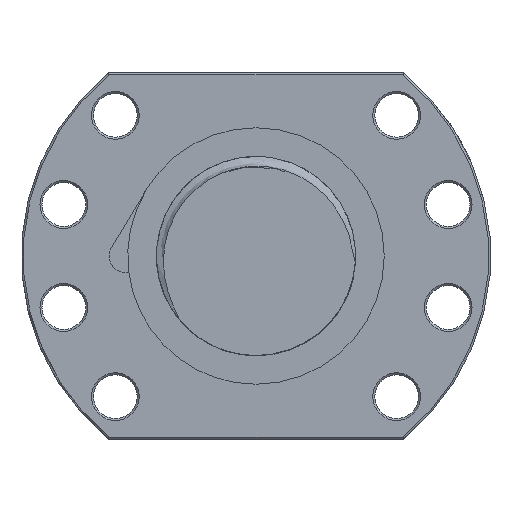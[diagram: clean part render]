
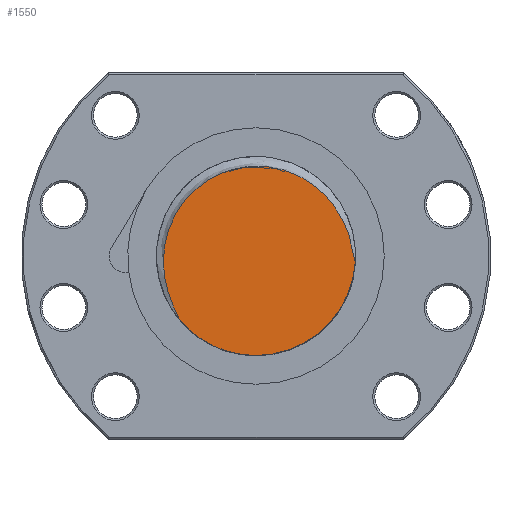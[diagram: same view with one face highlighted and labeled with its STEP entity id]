
A CAD part, left-side view. The second image highlights one B-rep face of the part: STEP entity #1550.
In plain terms, the highlighted planar face has unit normal (-1, 0, 0).
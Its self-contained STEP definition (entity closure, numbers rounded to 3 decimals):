
#773 = VERTEX_POINT ( 'NONE', #19166 ) ;
#844 = VERTEX_POINT ( 'NONE', #19577 ) ;
#1033 = EDGE_CURVE ( 'NONE', #844, #773, #22004, .T. ) ;
#1121 = EDGE_CURVE ( 'NONE', #1122, #844, #22357, .T. ) ;
#1122 = VERTEX_POINT ( 'NONE', #22349 ) ;
#1535 = ORIENTED_EDGE ( 'NONE', *, *, #1033, .F. ) ;
#1539 = EDGE_CURVE ( 'NONE', #1122, #773, #29236, .T. ) ;
#1540 = ORIENTED_EDGE ( 'NONE', *, *, #1121, .F. ) ;
#1543 = EDGE_LOOP ( 'NONE', ( #1540, #1545, #1535 ) ) ;
#1545 = ORIENTED_EDGE ( 'NONE', *, *, #1539, .T. ) ;
#1550 = ADVANCED_FACE ( 'NONE', ( #9519 ), #9518, .F. ) ;
#9513 = DIRECTION ( 'NONE',  ( 0., 0., -1. ) ) ;
#9514 = DIRECTION ( 'NONE',  ( 1., 0., 0. ) ) ;
#9515 = CARTESIAN_POINT ( 'NONE',  ( -208., 0., 0. ) ) ;
#9516 = AXIS2_PLACEMENT_3D ( 'NONE', #9515, #9514, #9513 ) ;
#9518 = PLANE ( 'NONE',  #9516 ) ;
#9519 = FACE_OUTER_BOUND ( 'NONE', #1543, .T. ) ;
#19166 = CARTESIAN_POINT ( 'NONE',  ( -208., 19.232, -15.973 ) ) ;
#19577 = CARTESIAN_POINT ( 'NONE',  ( -208., 0., -25. ) ) ;
#22000 = DIRECTION ( 'NONE',  ( 0., 1., 0. ) ) ;
#22001 = DIRECTION ( 'NONE',  ( 1., 0., 0. ) ) ;
#22002 = CARTESIAN_POINT ( 'NONE',  ( -208., 0., 0. ) ) ;
#22003 = AXIS2_PLACEMENT_3D ( 'NONE', #22002, #22001, #22000 ) ;
#22004 = CIRCLE ( 'NONE', #22003, 25. ) ;
#22349 = CARTESIAN_POINT ( 'NONE',  ( -208., -24.948, -1.617 ) ) ;
#22350 = DIRECTION ( 'NONE',  ( 0., 1., 0. ) ) ;
#22351 = DIRECTION ( 'NONE',  ( 1., 0., 0. ) ) ;
#22352 = CARTESIAN_POINT ( 'NONE',  ( -208., 0., 0. ) ) ;
#22353 = AXIS2_PLACEMENT_3D ( 'NONE', #22352, #22351, #22350 ) ;
#22357 = CIRCLE ( 'NONE', #22353, 25. ) ;
#28629 = CARTESIAN_POINT ( 'NONE',  ( -208., 0.491, 22.572 ) ) ;
#28631 = CARTESIAN_POINT ( 'NONE',  ( -208., -0.447, 22.583 ) ) ;
#28634 = CARTESIAN_POINT ( 'NONE',  ( -208., 2.36, 22.438 ) ) ;
#29206 = CARTESIAN_POINT ( 'NONE',  ( -208., -1.862, 22.515 ) ) ;
#29207 = CARTESIAN_POINT ( 'NONE',  ( -208., -2.336, 22.478 ) ) ;
#29208 = CARTESIAN_POINT ( 'NONE',  ( -208., -3.279, 22.375 ) ) ;
#29209 = CARTESIAN_POINT ( 'NONE',  ( -208., -3.747, 22.31 ) ) ;
#29210 = CARTESIAN_POINT ( 'NONE',  ( -208., -5.14, 22.073 ) ) ;
#29211 = CARTESIAN_POINT ( 'NONE',  ( -208., -6.054, 21.859 ) ) ;
#29212 = CARTESIAN_POINT ( 'NONE',  ( -208., -7.856, 21.324 ) ) ;
#29213 = CARTESIAN_POINT ( 'NONE',  ( -208., -8.746, 21.001 ) ) ;
#29214 = CARTESIAN_POINT ( 'NONE',  ( -208., -11.36, 19.871 ) ) ;
#29215 = CARTESIAN_POINT ( 'NONE',  ( -208., -12.984, 18.925 ) ) ;
#29216 = CARTESIAN_POINT ( 'NONE',  ( -208., -15.247, 17.226 ) ) ;
#29217 = CARTESIAN_POINT ( 'NONE',  ( -208., -15.976, 16.61 ) ) ;
#29218 = CARTESIAN_POINT ( 'NONE',  ( -208., -17.342, 15.311 ) ) ;
#29219 = CARTESIAN_POINT ( 'NONE',  ( -208., -17.983, 14.627 ) ) ;
#29220 = CARTESIAN_POINT ( 'NONE',  ( -208., -19.185, 13.191 ) ) ;
#29221 = CARTESIAN_POINT ( 'NONE',  ( -208., -19.745, 12.439 ) ) ;
#29222 = CARTESIAN_POINT ( 'NONE',  ( -208., -20.785, 10.868 ) ) ;
#29223 = CARTESIAN_POINT ( 'NONE',  ( -208., -21.267, 10.046 ) ) ;
#29224 = CARTESIAN_POINT ( 'NONE',  ( -208., -22.133, 8.366 ) ) ;
#29225 = CARTESIAN_POINT ( 'NONE',  ( -208., -22.519, 7.506 ) ) ;
#29226 = CARTESIAN_POINT ( 'NONE',  ( -208., -23.204, 5.748 ) ) ;
#29227 = CARTESIAN_POINT ( 'NONE',  ( -208., -23.502, 4.847 ) ) ;
#29228 = CARTESIAN_POINT ( 'NONE',  ( -208., -24.017, 3.023 ) ) ;
#29229 = CARTESIAN_POINT ( 'NONE',  ( -208., -24.233, 2.101 ) ) ;
#29230 = CARTESIAN_POINT ( 'NONE',  ( -208., -24.513, 0.71 ) ) ;
#29231 = CARTESIAN_POINT ( 'NONE',  ( -208., -24.599, 0.244 ) ) ;
#29232 = CARTESIAN_POINT ( 'NONE',  ( -208., -24.768, -0.687 ) ) ;
#29233 = CARTESIAN_POINT ( 'NONE',  ( -208., -24.849, -1.154 ) ) ;
#29235 = CARTESIAN_POINT ( 'NONE',  ( -208., -24.948, -1.617 ) ) ;
#29236 = B_SPLINE_CURVE_WITH_KNOTS ( 'NONE', 3,
 ( #29235, #29233, #29232, #29231, #29230, #29229, #29228, #29227, #29226, #29225, #29224, #29223, #29222, #29221, #29220, #29219, #29218, #29217, #29216, #29215, #29214, #29213, #29212, #29211, #29210, #29209, #29208, #29207, #29206, #28631, #28629, #28634, #29607, #29606, #29548, #29547, #29546, #29545, #29544, #29543, #29542, #29541, #29605, #29604, #29603, #29602, #29601, #29600, #29599, #29598, #29597, #29596, #29595, #29594, #29593, #29592, #29591, #29590, #29589, #29588, #29587, #29586, #29585, #29584, #29583, #29582, #29581, #29580, #29579, #29578, #29577, #29576 ),
 .UNSPECIFIED., .F., .F.,
 ( 4, 2, 2, 2, 2, 2, 2, 2, 2, 2, 2, 2, 2, 2, 2, 2, 2, 2, 2, 2, 2, 2, 2, 2, 2, 2, 2, 2, 2, 2, 2, 2, 2, 2, 2, 4 ),
 ( 0.001, 0.003, 0.004, 0.007, 0.01, 0.012, 0.015, 0.018, 0.021, 0.024, 0.029, 0.032, 0.035, 0.037, 0.038, 0.041, 0.044, 0.046, 0.052, 0.054, 0.055, 0.058, 0.059, 0.061, 0.063, 0.066, 0.069, 0.075, 0.076, 0.078, 0.08, 0.083, 0.086, 0.089, 0.09, 0.092 ),
 .UNSPECIFIED. ) ;
#29541 = CARTESIAN_POINT ( 'NONE',  ( -208., 15.115, 16.82 ) ) ;
#29542 = CARTESIAN_POINT ( 'NONE',  ( -208., 14.016, 17.703 ) ) ;
#29543 = CARTESIAN_POINT ( 'NONE',  ( -208., 13.64, 17.987 ) ) ;
#29544 = CARTESIAN_POINT ( 'NONE',  ( -208., 12.87, 18.533 ) ) ;
#29545 = CARTESIAN_POINT ( 'NONE',  ( -208., 12.474, 18.796 ) ) ;
#29546 = CARTESIAN_POINT ( 'NONE',  ( -208., 10.459, 20.049 ) ) ;
#29547 = CARTESIAN_POINT ( 'NONE',  ( -208., 8.756, 20.839 ) ) ;
#29548 = CARTESIAN_POINT ( 'NONE',  ( -208., 6.066, 21.712 ) ) ;
#29576 = CARTESIAN_POINT ( 'NONE',  ( -208., 19.232, -15.973 ) ) ;
#29577 = CARTESIAN_POINT ( 'NONE',  ( -208., 19.425, -15.54 ) ) ;
#29578 = CARTESIAN_POINT ( 'NONE',  ( -208., 19.634, -15.114 ) ) ;
#29579 = CARTESIAN_POINT ( 'NONE',  ( -208., 20.046, -14.259 ) ) ;
#29580 = CARTESIAN_POINT ( 'NONE',  ( -208., 20.25, -13.831 ) ) ;
#29581 = CARTESIAN_POINT ( 'NONE',  ( -208., 20.843, -12.537 ) ) ;
#29582 = CARTESIAN_POINT ( 'NONE',  ( -208., 21.211, -11.663 ) ) ;
#29583 = CARTESIAN_POINT ( 'NONE',  ( -208., 21.865, -9.885 ) ) ;
#29584 = CARTESIAN_POINT ( 'NONE',  ( -208., 22.153, -8.978 ) ) ;
#29585 = CARTESIAN_POINT ( 'NONE',  ( -208., 22.634, -7.149 ) ) ;
#29586 = CARTESIAN_POINT ( 'NONE',  ( -208., 22.826, -6.228 ) ) ;
#29587 = CARTESIAN_POINT ( 'NONE',  ( -208., 23.11, -4.373 ) ) ;
#29588 = CARTESIAN_POINT ( 'NONE',  ( -208., 23.203, -3.438 ) ) ;
#29589 = CARTESIAN_POINT ( 'NONE',  ( -208., 23.264, -2.027 ) ) ;
#29590 = CARTESIAN_POINT ( 'NONE',  ( -208., 23.272, -1.555 ) ) ;
#29591 = CARTESIAN_POINT ( 'NONE',  ( -208., 23.261, -0.607 ) ) ;
#29592 = CARTESIAN_POINT ( 'NONE',  ( -208., 23.242, -0.132 ) ) ;
#29593 = CARTESIAN_POINT ( 'NONE',  ( -208., 23.08, 2.225 ) ) ;
#29594 = CARTESIAN_POINT ( 'NONE',  ( -208., 22.739, 4.069 ) ) ;
#29595 = CARTESIAN_POINT ( 'NONE',  ( -208., 21.906, 6.774 ) ) ;
#29596 = CARTESIAN_POINT ( 'NONE',  ( -208., 21.573, 7.669 ) ) ;
#29597 = CARTESIAN_POINT ( 'NONE',  ( -208., 20.811, 9.393 ) ) ;
#29598 = CARTESIAN_POINT ( 'NONE',  ( -208., 20.381, 10.227 ) ) ;
#29599 = CARTESIAN_POINT ( 'NONE',  ( -208., 19.425, 11.841 ) ) ;
#29600 = CARTESIAN_POINT ( 'NONE',  ( -208., 18.899, 12.62 ) ) ;
#29601 = CARTESIAN_POINT ( 'NONE',  ( -208., 18.037, 13.746 ) ) ;
#29602 = CARTESIAN_POINT ( 'NONE',  ( -208., 17.736, 14.116 ) ) ;
#29603 = CARTESIAN_POINT ( 'NONE',  ( -208., 17.117, 14.832 ) ) ;
#29604 = CARTESIAN_POINT ( 'NONE',  ( -208., 16.797, 15.179 ) ) ;
#29605 = CARTESIAN_POINT ( 'NONE',  ( -208., 15.811, 16.189 ) ) ;
#29606 = CARTESIAN_POINT ( 'NONE',  ( -208., 5.142, 21.952 ) ) ;
#29607 = CARTESIAN_POINT ( 'NONE',  ( -208., 3.29, 22.314 ) ) ;
